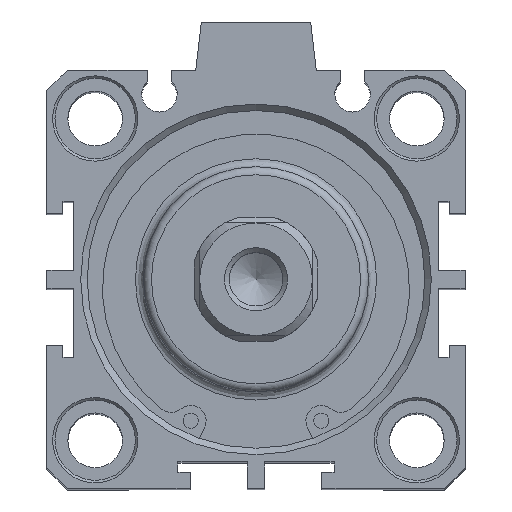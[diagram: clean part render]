
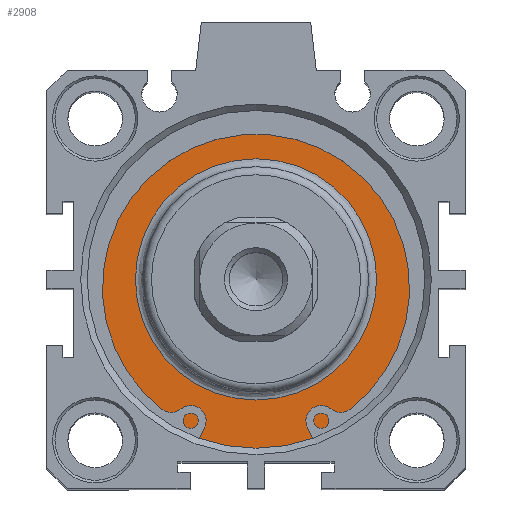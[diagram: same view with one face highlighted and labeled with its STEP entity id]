
A CAD part, top view. The second image highlights one B-rep face of the part: STEP entity #2908.
In plain terms, the highlighted planar face has unit normal (0, 0, 1).
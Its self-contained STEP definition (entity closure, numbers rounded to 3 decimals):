
#2857=CARTESIAN_POINT('',(0.598,16.555,107.4));
#2858=VERTEX_POINT('',#2857);
#2859=CARTESIAN_POINT('',(0.598,1.555,107.4));
#2860=DIRECTION('',(0.0,0.0,1.0));
#2861=DIRECTION('',(0.0,-1.0,0.0));
#2862=AXIS2_PLACEMENT_3D('',#2859,#2860,#2861);
#2863=CIRCLE('',#2862,15.);
#2864=EDGE_CURVE('',#2858,#2858,#2863,.T.);
#2889=CARTESIAN_POINT('',(0.598,19.055,107.4));
#2890=DIRECTION('',(0.0,0.0,1.0));
#2891=DIRECTION('',(1.0,0.0,0.0));
#2892=AXIS2_PLACEMENT_3D('',#2889,#2890,#2891);
#2893=PLANE('',#2892);
#2894=CARTESIAN_POINT('',(0.598,22.555,107.4));
#2895=VERTEX_POINT('',#2894);
#2896=CARTESIAN_POINT('',(0.598,1.555,107.4));
#2897=DIRECTION('',(0.0,0.0,-1.0));
#2898=DIRECTION('',(0.0,1.0,0.0));
#2899=AXIS2_PLACEMENT_3D('',#2896,#2897,#2898);
#2900=CIRCLE('',#2899,21.);
#2901=EDGE_CURVE('',#2895,#2895,#2900,.T.);
#2902=ORIENTED_EDGE('',*,*,#2901,.F.);
#2903=EDGE_LOOP('',(#2902));
#2904=FACE_OUTER_BOUND('',#2903,.T.);
#2905=ORIENTED_EDGE('',*,*,#2864,.F.);
#2906=EDGE_LOOP('',(#2905));
#2907=FACE_BOUND('',#2906,.T.);
#2908=ADVANCED_FACE('',(#2904,#2907),#2893,.T.);
